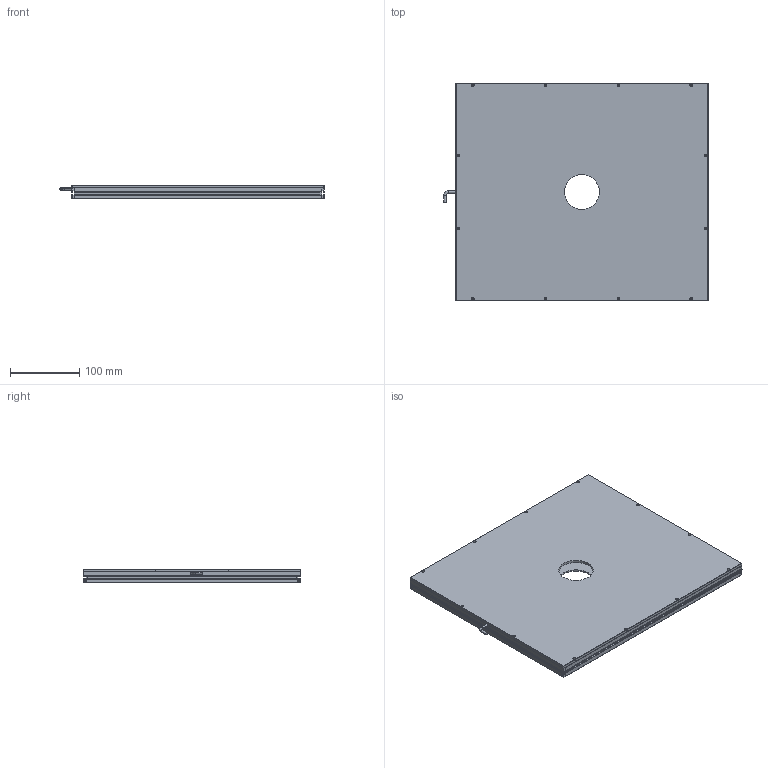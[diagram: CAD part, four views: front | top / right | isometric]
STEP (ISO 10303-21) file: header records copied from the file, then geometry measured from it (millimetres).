
FILE_DESCRIPTION (( 'STEP AP203' ), '1' );
FILE_NAME ('CRT-2KFLD350300Y50-¼òÒ×3DÍ¼.STEP', '2021-11-24T06:36:58', ( 'Admin' ), ( '' ), 'SwSTEP 2.0', 'SolidWorks 2018', '' );
FILE_SCHEMA (( 'CONFIG_CONTROL_DESIGN' ));
Length unit declared in the file: millimetre
Products named in the file (1): CRT-2KFLD350300Y50-潠眢3D芞
Bounding box: 381.25 x 314 x 20 mm (x, y, z)
Surface area: 593766.6 mm2 (no closed solid volume)
Topology: 0 solids, 9 shells, 180 faces, 672 edges, 486 vertices
Faces by surface type: cylinder 86, plane 83, cone 9, bspline 2
Entity records: 7340 total; most frequent: CARTESIAN_POINT 1473, DIRECTION 1263, ORIENTED_EDGE 1030, EDGE_CURVE 672, VERTEX_POINT 486, AXIS2_PLACEMENT_3D 432, VECTOR 399, LINE 399
